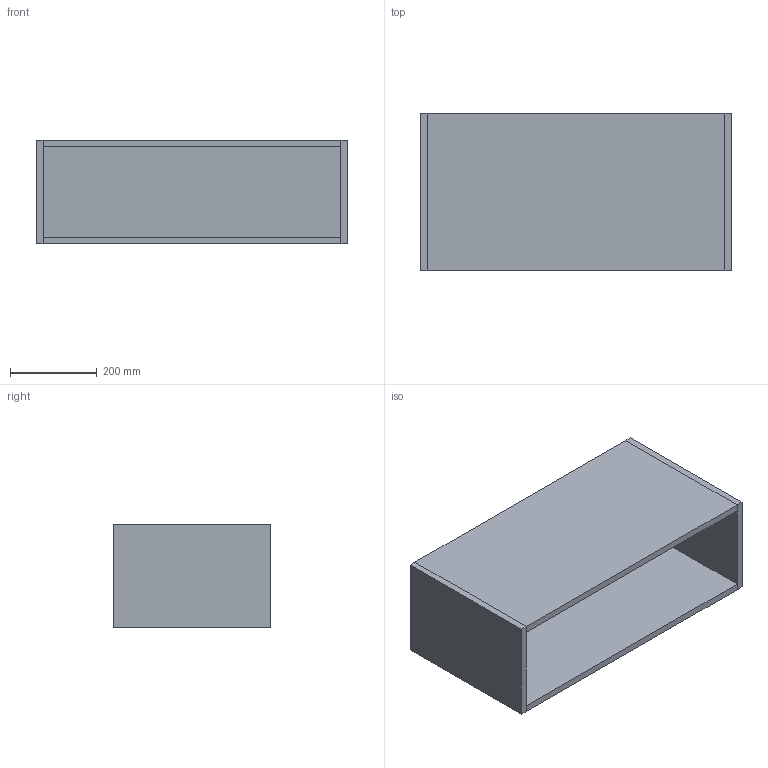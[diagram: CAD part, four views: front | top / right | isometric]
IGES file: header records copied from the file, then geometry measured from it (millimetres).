
Start section: Data from Parasolid IGES Translator 19.0.9, Copyright(c) 2006 Siemens PL M Software. All Rights Reserved.
Global section: file name: noorth-SI-H 24 D 38,8 W 72_8282.igs; native system: By Siemens PLM Incorporated; preprocessor: XPlus GENERIC/IGES 19.0.9; author: Noname; organization: Noname; date: 20200530.105443; units: metre
Bounding box: 720.01 x 364.06 x 240 mm (x, y, z)
Volume: 11220098.1 mm3; surface area: 1748718.6 mm2
Topology: 5 solids, 5 shells, 30 faces, 60 edges, 40 vertices
Faces by surface type: plane 30
